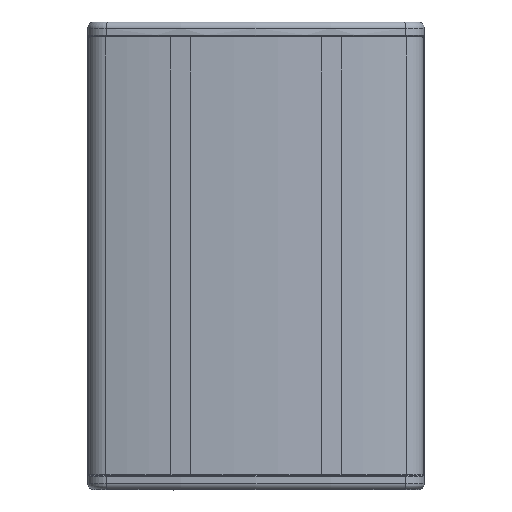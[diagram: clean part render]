
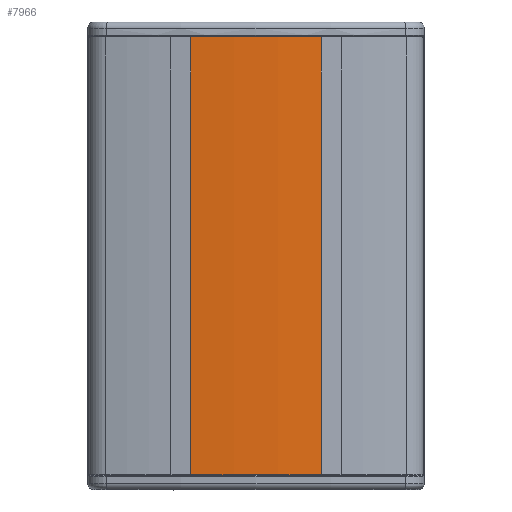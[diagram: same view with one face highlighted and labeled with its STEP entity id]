
A CAD part, top view. The second image highlights one B-rep face of the part: STEP entity #7966.
In plain terms, the highlighted cylindrical face has radius 809 mm (diameter 1618 mm), a partial arc.
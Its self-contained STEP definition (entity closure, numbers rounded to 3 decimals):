
#6095 = FACE_OUTER_BOUND ( 'NONE', #9238, .T. ) ;
#6096 = CYLINDRICAL_SURFACE ( 'NONE', #9623, 809. ) ;
#7966 = ADVANCED_FACE ( 'NONE', ( #6095 ), #6096, .T. ) ;
#8773 = ORIENTED_EDGE ( 'NONE', *, *, #15732, .T. ) ;
#8774 = ORIENTED_EDGE ( 'NONE', *, *, #15733, .F. ) ;
#8775 = ORIENTED_EDGE ( 'NONE', *, *, #15734, .F. ) ;
#8776 = ORIENTED_EDGE ( 'NONE', *, *, #15730, .T. ) ;
#9238 = EDGE_LOOP ( 'NONE', ( #8773, #8774, #8775, #8776 ) ) ;
#9623 = AXIS2_PLACEMENT_3D ( 'NONE', #10637, #10638, #10639 ) ;
#9916 = AXIS2_PLACEMENT_3D ( 'NONE', #13832, #13833, #13834 ) ;
#9917 = AXIS2_PLACEMENT_3D ( 'NONE', #13837, #13838, #13839 ) ;
#10637 = CARTESIAN_POINT ( 'NONE',  ( -21.234, 496.506, -810. ) ) ;
#10638 = DIRECTION ( 'NONE',  ( 0., -1., 0. ) ) ;
#10639 = DIRECTION ( 'NONE',  ( 0., 0., -1. ) ) ;
#11040 = CARTESIAN_POINT ( 'NONE',  ( 48.766, 496.506, -4.034 ) ) ;
#11041 = CARTESIAN_POINT ( 'NONE',  ( 48.766, 28.506, -4.034 ) ) ;
#11042 = CARTESIAN_POINT ( 'NONE',  ( -91.234, 496.506, -4.034 ) ) ;
#11043 = CARTESIAN_POINT ( 'NONE',  ( -91.234, 28.506, -4.034 ) ) ;
#13313 = LINE ( 'NONE', #13828, #13314 ) ;
#13314 = VECTOR ( 'NONE', #13829, 1000. ) ;
#13317 = LINE ( 'NONE', #13835, #13319 ) ;
#13318 = CIRCLE ( 'NONE', #9916, 809. ) ;
#13319 = VECTOR ( 'NONE', #13836, 1000. ) ;
#13321 = CIRCLE ( 'NONE', #9917, 809. ) ;
#13828 = CARTESIAN_POINT ( 'NONE',  ( -91.234, 496.506, -4.034 ) ) ;
#13829 = DIRECTION ( 'NONE',  ( 0., -1., 0. ) ) ;
#13832 = CARTESIAN_POINT ( 'NONE',  ( -21.234, 28.506, -810. ) ) ;
#13833 = DIRECTION ( 'NONE',  ( 0., 1., 0. ) ) ;
#13834 = DIRECTION ( 'NONE',  ( 0., 0., 1. ) ) ;
#13835 = CARTESIAN_POINT ( 'NONE',  ( 48.766, 496.506, -4.034 ) ) ;
#13836 = DIRECTION ( 'NONE',  ( 0., -1., 0. ) ) ;
#13837 = CARTESIAN_POINT ( 'NONE',  ( -21.234, 496.506, -810. ) ) ;
#13838 = DIRECTION ( 'NONE',  ( 0., 1., 0. ) ) ;
#13839 = DIRECTION ( 'NONE',  ( 0., 0., 1. ) ) ;
#14393 = VERTEX_POINT ( 'NONE', #11040 ) ;
#14394 = VERTEX_POINT ( 'NONE', #11041 ) ;
#14395 = VERTEX_POINT ( 'NONE', #11042 ) ;
#14396 = VERTEX_POINT ( 'NONE', #11043 ) ;
#15730 = EDGE_CURVE ( 'NONE', #14395, #14396, #13313, .T. ) ;
#15732 = EDGE_CURVE ( 'NONE', #14396, #14394, #13318, .T. ) ;
#15733 = EDGE_CURVE ( 'NONE', #14393, #14394, #13317, .T. ) ;
#15734 = EDGE_CURVE ( 'NONE', #14395, #14393, #13321, .T. ) ;
